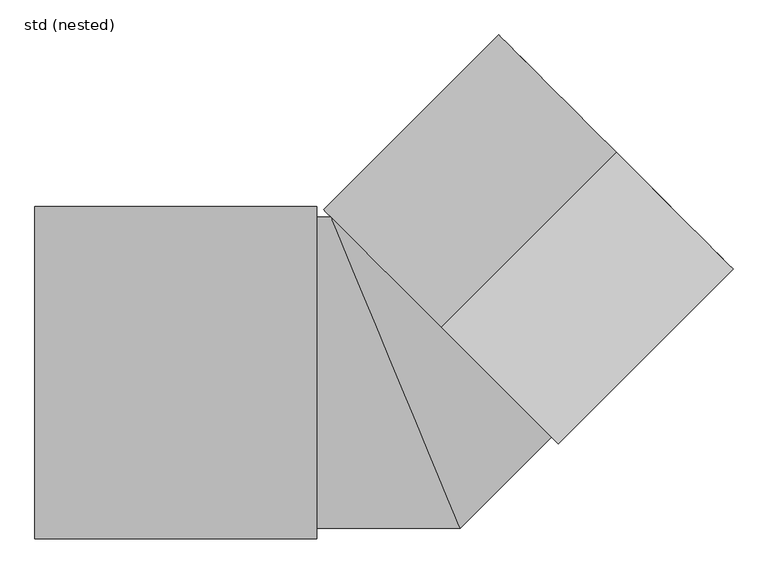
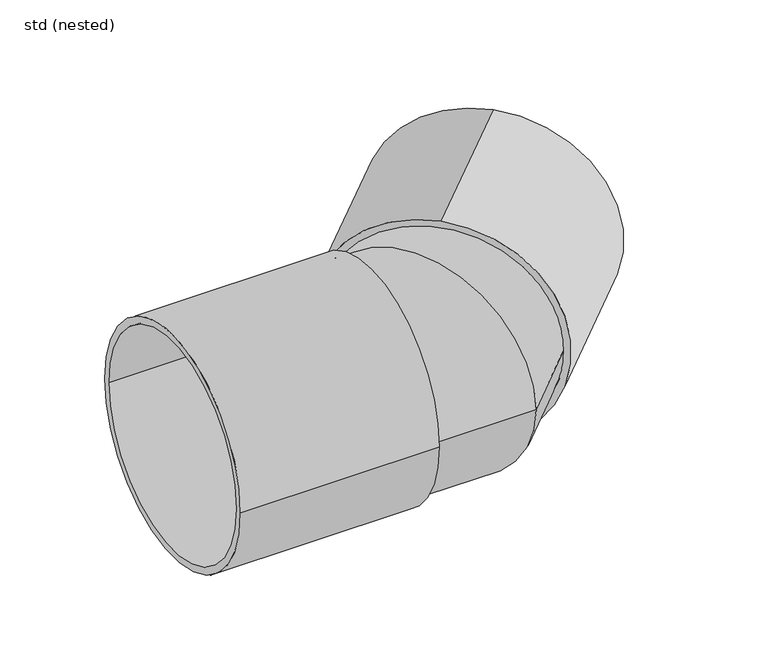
"""IFC4 building model written with IfcOpenShell, lengths in millimetres: pipe fitting geometry, NLRS_52_PIF_WPB_Ultra Kyma bocht 1MV SH_Dyka : std (nested)."""

from ifc_helpers import new_model, si_unit, point, frame, origin, origin_2d, place, context, project, spatial, circle_curve, ellipse_curve, trimmed, segment, composite_curve, outline, extrude, source, transform, mapped, element, save
from ifc_brep_helpers import plane_surface, cylinder_surface, advanced_brep


def std_nested_9b1d3737(model_context):
    return source(origin(), model_context, "Body", "SolidModel", [
        advanced_brep(
        [(-141.834915, -227.0, 0.0), (94.0044546, -227.0, 0.0), (-94.0044546, 227.0, 0.0), (-141.834915, 227.0, 0.0), (260.7956914, -60.2640063, 0.0), (100.3090406, 100.2758171, 227.0), (-60.1776103, 260.8156405, 0.0), (100.3090406, 100.2758171, -227.0), (186.7071074, 186.645268, -227.0), (186.7071074, 186.645268, 227.0), (-305.0, -227.0, 0.0), (-305.0, 227.0, 0.0)],
        [
            (0, 1),
            (1, 2, ellipse_curve(frame((0.0, 0.0, 0.0), z_axis=(-0.9239112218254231, -0.3826069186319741, 0.0), x_axis=(-0.3826069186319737, 0.9239112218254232, 0.0)), 245.6946021, 227.0)),
            (2, 3),
            (3, 0, circle_curve(frame((-141.834915, 0.0, 0.0), z_axis=(1.0, 0.0, 0.0), x_axis=(0.0, 1.0, 0.0)), 227.0)),
            (0, 3, circle_curve(frame((-141.834915, 0.0, 0.0), z_axis=(1.0, 0.0, 0.0), x_axis=(0.0, 1.0, 0.0)), 227.0)),
            (2, 1, ellipse_curve(frame((0.0, 0.0, 0.0), z_axis=(-0.9239112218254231, -0.3826069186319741, 0.0), x_axis=(-0.3826069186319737, 0.9239112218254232, 0.0)), 245.6946021, 227.0)),
            (1, 4),
            (4, 5, circle_curve(frame((100.3090406, 100.2758171, 0.0), z_axis=(-0.7072238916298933, -0.7069896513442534, 0.0), x_axis=(-0.7069896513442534, 0.7072238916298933, 0.0)), 227.0)),
            (5, 6, circle_curve(frame((100.3090406, 100.2758171, 0.0), z_axis=(-0.7072238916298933, -0.7069896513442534, 0.0), x_axis=(-0.7069896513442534, 0.7072238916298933, 0.0)), 227.0)),
            (6, 2),
            (6, 7, circle_curve(frame((100.3090406, 100.2758171, 0.0), z_axis=(-0.7072238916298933, -0.7069896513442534, 0.0), x_axis=(-0.7069896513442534, 0.7072238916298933, 0.0)), 227.0)),
            (7, 4, circle_curve(frame((100.3090406, 100.2758171, 0.0), z_axis=(-0.7072238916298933, -0.7069896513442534, 0.0), x_axis=(-0.7069896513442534, 0.7072238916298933, 0.0)), 227.0)),
            (8, 9, circle_curve(frame((186.7071074, 186.645268, 0.0), z_axis=(0.707223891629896, 0.7069896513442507, 0.0), x_axis=(0.0, 0.0, 1.0)), 227.0)),
            (9, 8, circle_curve(frame((186.7071074, 186.645268, 0.0), z_axis=(0.707223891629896, 0.7069896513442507, 0.0), x_axis=(0.0, 0.0, 1.0)), 227.0)),
            (8, 7),
            (5, 9),
            (10, 11, circle_curve(frame((-305.0, 0.0, 0.0), z_axis=(-1.0, 0.0, 0.0), x_axis=(0.0, 1.0, 0.0)), 227.0)),
            (11, 10, circle_curve(frame((-305.0, 0.0, 0.0), z_axis=(-1.0, 0.0, 0.0), x_axis=(0.0, 1.0, 0.0)), 227.0)),
            (10, 0),
            (3, 11),
        ],
        [
            cylinder_surface(frame((-141.834915, 0.0, 0.0), z_axis=(-1.0, 0.0, 0.0), x_axis=(0.0, 1.0, 0.0)), 227.0),
            cylinder_surface(frame((0.0, 0.0, 0.0), z_axis=(-0.7072238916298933, -0.7069896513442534, 0.0), x_axis=(-0.7069896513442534, 0.7072238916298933, 0.0)), 227.0),
            plane_surface(frame((186.7071074, 186.645268, 227.0), z_axis=(0.7072238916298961, 0.7069896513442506, 0.0), x_axis=(0.7069896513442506, -0.7072238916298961, 0.0))),
            cylinder_surface(frame((100.3090406, 100.2758171, 0.0), z_axis=(0.707223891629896, 0.7069896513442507, 0.0), x_axis=(0.0, 0.0, 1.0)), 227.0),
            plane_surface(frame((-305.0, 227.0, 0.0), z_axis=(-1.0, 0.0, 0.0), x_axis=(0.0, 0.0, -1.0))),
        ],
        [
            (0, [[1, 2, 3, 4]]),
            (0, [[-1, 5, -3, 6]]),
            (1, [[-2, 7, 8, 9, 10]]),
            (1, [[-6, -10, 11, 12, -7]]),
            (2, [[13, 14]]),
            (3, [[-13, 15, -11, -9, 16]]),
            (3, [[-14, -16, -8, -12, -15]]),
            (4, [[17, 18]]),
            (0, [[-17, 19, -4, 20]]),
            (0, [[-18, -20, -5, -19]]),
        ],
    ),
        extrude(outline(composite_curve([segment(trimmed(circle_curve(origin_2d(), 242.0), [point((-242.0, 0.0))], [point((242.0, 0.0))], False, "CARTESIAN"), True, "CONTINUOUS"), segment(trimmed(circle_curve(origin_2d(), 242.0), [point((242.0, 0.0))], [point((-242.0, 0.0))], False, "CARTESIAN"), True, "CONTINUOUS")], self_intersect=False), holes=[composite_curve([segment(trimmed(circle_curve(origin_2d(), 227.0), [point((227.0, 0.0))], [point((-227.0, 0.0))], True, "CARTESIAN"), True, "CONTINUOUS"), segment(trimmed(circle_curve(origin_2d(), 227.0), [point((-227.0, 0.0))], [point((227.0, 0.0))], True, "CARTESIAN"), True, "CONTINUOUS")], self_intersect=False)]), frame((66.4977722, 66.4757474, 0.0), z_axis=(0.707223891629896, 0.7069896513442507, 0.0), x_axis=(0.0, 0.0, 1.0)), (0.0, 0.0, 1.0), 359.9735213),
        extrude(outline(composite_curve([segment(trimmed(circle_curve(origin_2d(), 242.0), [point((242.0, 0.0))], [point((-242.0, 0.0))], False, "CARTESIAN"), True, "CONTINUOUS"), segment(trimmed(circle_curve(origin_2d(), 242.0), [point((-242.0, 0.0))], [point((242.0, 0.0))], False, "CARTESIAN"), True, "CONTINUOUS")], self_intersect=False), holes=[composite_curve([segment(trimmed(circle_curve(origin_2d(), 227.0), [point((-227.0, 0.0))], [point((227.0, 0.0))], True, "CARTESIAN"), True, "CONTINUOUS"), segment(trimmed(circle_curve(origin_2d(), 227.0), [point((227.0, 0.0))], [point((-227.0, 0.0))], True, "CARTESIAN"), True, "CONTINUOUS")], self_intersect=False)]), frame((-525.0, 0.0, 0.0), z_axis=(1.0, 0.0, 0.0), x_axis=(0.0, 1.0, 0.0)), (0.0, 0.0, 1.0), 410.0),
    ])


if __name__ == "__main__":
    model = new_model("IFC4")
    model_context = context("Model", 3, world=origin())
    ifc_project = project(units=[si_unit("LENGTHUNIT", "METRE", prefix="MILLI")], contexts=[model_context])
    site = spatial("IfcSite", under=ifc_project)
    building = spatial("IfcBuilding", under=site)
    placement = place(None, origin())
    std_nested_shape = std_nested_9b1d3737(model_context)
    element("IfcPipeFitting", 1, ObjectType="NLRS_52_PIF_WPB_Ultra Kyma bocht 1MV SH_Dyka : std (nested)", at=placement, inside=building, context=model_context, shape_type="MappedRepresentation", body=[
        mapped(std_nested_shape, transform((0.0, 0.0, 0.0), x_axis=(1.0, 0.0, 0.0), y_axis=(0.0, 1.0, 0.0), z_axis=(0.0, 0.0, 1.0))),
    ])
    save(model, "model.ifc")
